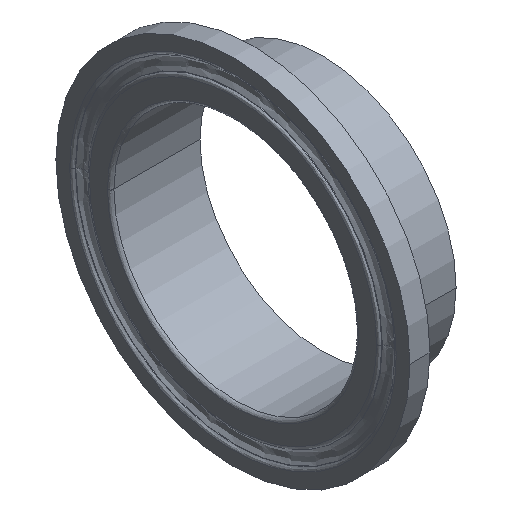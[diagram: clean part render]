
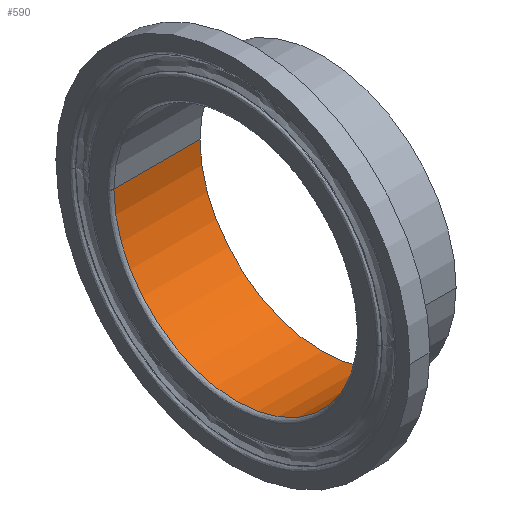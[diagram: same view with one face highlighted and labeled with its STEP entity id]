
A CAD part, isometric view. The second image highlights one B-rep face of the part: STEP entity #590.
In plain terms, the highlighted cylindrical face has radius 17.399 mm (diameter 34.798 mm), a partial arc.
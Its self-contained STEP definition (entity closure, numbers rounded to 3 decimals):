
#2 = EDGE_CURVE ( 'NONE', #154, #375, #1213, .T. ) ;
#22 = VECTOR ( 'NONE', #1338, 1000. ) ;
#35 = FACE_OUTER_BOUND ( 'NONE', #164, .T. ) ;
#88 = DIRECTION ( 'NONE',  ( 1., 0., 0. ) ) ;
#93 = CARTESIAN_POINT ( 'NONE',  ( 45.786, 0., 0. ) ) ;
#97 = ORIENTED_EDGE ( 'NONE', *, *, #1156, .F. ) ;
#154 = VERTEX_POINT ( 'NONE', #227 ) ;
#164 = EDGE_LOOP ( 'NONE', ( #722, #1389, #97, #469 ) ) ;
#227 = CARTESIAN_POINT ( 'NONE',  ( -12.243, -17.399, 0. ) ) ;
#250 = CARTESIAN_POINT ( 'NONE',  ( 45.786, 17.399, 0. ) ) ;
#260 = EDGE_CURVE ( 'NONE', #154, #877, #1175, .T. ) ;
#283 = LINE ( 'NONE', #250, #791 ) ;
#372 = DIRECTION ( 'NONE',  ( 1., 0., 0. ) ) ;
#375 = VERTEX_POINT ( 'NONE', #1030 ) ;
#413 = DIRECTION ( 'NONE',  ( 0., 1., 0. ) ) ;
#431 = AXIS2_PLACEMENT_3D ( 'NONE', #448, #453, #458 ) ;
#448 = CARTESIAN_POINT ( 'NONE',  ( 0., 0., 0. ) ) ;
#453 = DIRECTION ( 'NONE',  ( -1., 0., 0. ) ) ;
#458 = DIRECTION ( 'NONE',  ( 0., 1., 0. ) ) ;
#469 = ORIENTED_EDGE ( 'NONE', *, *, #733, .F. ) ;
#502 = DIRECTION ( 'NONE',  ( 1., 0., 0. ) ) ;
#519 = AXIS2_PLACEMENT_3D ( 'NONE', #1066, #502, #413 ) ;
#533 = CARTESIAN_POINT ( 'NONE',  ( 0., -17.399, 0. ) ) ;
#547 = VERTEX_POINT ( 'NONE', #1250 ) ;
#579 = CIRCLE ( 'NONE', #431, 17.399 ) ;
#582 = DIRECTION ( 'NONE',  ( 0., 1., 0. ) ) ;
#590 = ADVANCED_FACE ( 'NONE', ( #35 ), #630, .F. ) ;
#630 = CYLINDRICAL_SURFACE ( 'NONE', #800, 17.399 ) ;
#722 = ORIENTED_EDGE ( 'NONE', *, *, #2, .F. ) ;
#733 = EDGE_CURVE ( 'NONE', #375, #547, #283, .T. ) ;
#791 = VECTOR ( 'NONE', #372, 1000. ) ;
#800 = AXIS2_PLACEMENT_3D ( 'NONE', #93, #88, #582 ) ;
#877 = VERTEX_POINT ( 'NONE', #533 ) ;
#1030 = CARTESIAN_POINT ( 'NONE',  ( -12.243, 17.399, 0. ) ) ;
#1066 = CARTESIAN_POINT ( 'NONE',  ( -12.243, 0., 0. ) ) ;
#1156 = EDGE_CURVE ( 'NONE', #547, #877, #579, .T. ) ;
#1175 = LINE ( 'NONE', #1356, #22 ) ;
#1213 = CIRCLE ( 'NONE', #519, 17.399 ) ;
#1250 = CARTESIAN_POINT ( 'NONE',  ( 0., 17.399, 0. ) ) ;
#1338 = DIRECTION ( 'NONE',  ( 1., 0., 0. ) ) ;
#1356 = CARTESIAN_POINT ( 'NONE',  ( 45.786, -17.399, 0. ) ) ;
#1389 = ORIENTED_EDGE ( 'NONE', *, *, #260, .T. ) ;
